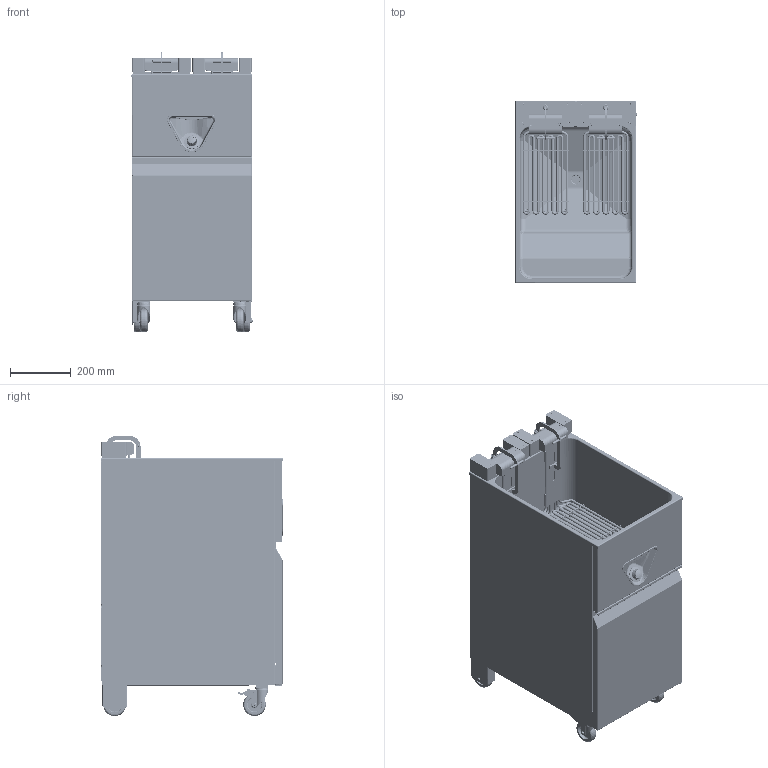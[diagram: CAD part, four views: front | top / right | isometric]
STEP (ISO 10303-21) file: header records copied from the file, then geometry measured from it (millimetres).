
FILE_DESCRIPTION(/* description */ (''),/* implementation_level */ '2;1');
FILE_NAME(/* name */ 'CORE400',/* time_stamp */ '2025-01-22T13:54:02+01:00',/* author */ (''),/* organization */ (''),/* preprocessor_version */ 'ST-DEVELOPER v19.2',/* originating_system */ 'Rhino 8.14',/* authorisation */ '');
FILE_SCHEMA (('CONFIG_CONTROL_DESIGN'));
Products named in the file (1): Document
Bounding box: 399.4 x 600 x 923.5 mm (x, y, z)
Volume: 5005680.4 mm3; surface area: 6649432.4 mm2
Topology: 114 solids, 179 shells, 6125 faces, 16173 edges, 10409 vertices
Faces by surface type: plane 2654, cylinder 2259, bspline 1212
Entity records: 262473 total; most frequent: CARTESIAN_POINT 131103, ORIENTED_EDGE 31824, DIRECTION 16486, EDGE_CURVE 16122, AXIS2_PLACEMENT_3D 10699, VERTEX_POINT 10407, B_SPLINE_CURVE_WITH_KNOTS 9184, EDGE_LOOP 6740
